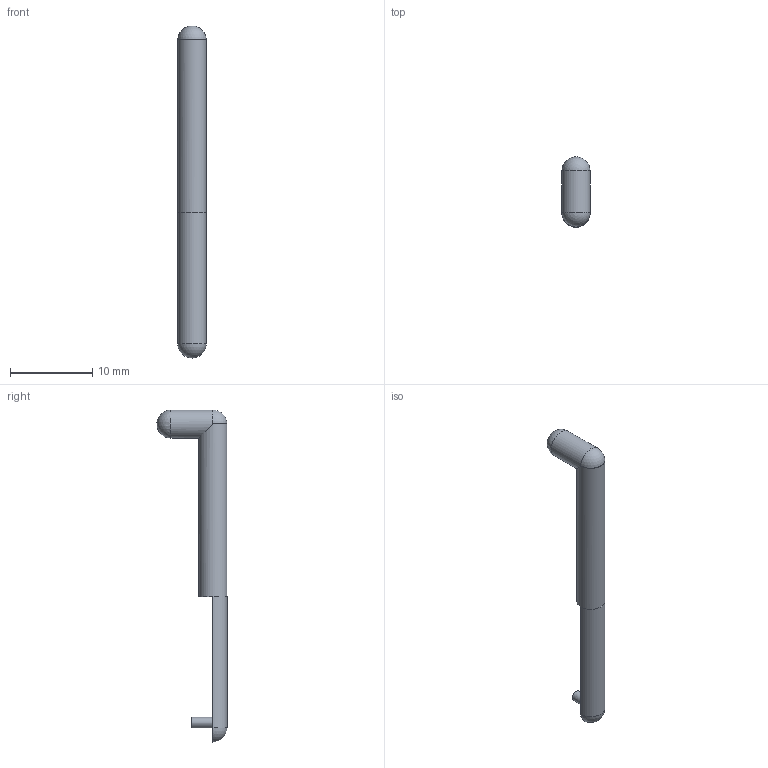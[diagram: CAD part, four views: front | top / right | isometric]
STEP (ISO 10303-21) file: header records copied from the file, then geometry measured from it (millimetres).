
FILE_DESCRIPTION(/* description */ ('Alibre Inc.'),/* implementation_level */ '2;1');
FILE_NAME(/* name */ 'export0',/* time_stamp */ '2012-08-14T17:35:51-05:00',/* author */ (''),/* organization */ (''),/* preprocessor_version */ 'ST-DEVELOPER v14',/* originating_system */ 'Alibre',/* authorisation */ '');
FILE_SCHEMA (('ALIBRE_SCHEMA','CONFIG_CONTROL_DESIGN'));
Length unit declared in the file: centimetre
Products named in the file (1): ID_1
Bounding box: 3.43 x 8.49 x 40.26 mm (x, y, z)
Volume: 330.2 mm3; surface area: 464.5 mm2
Topology: 1 solids, 1 shells, 13 faces, 35 edges, 21 vertices
Faces by surface type: cylinder 5, plane 5, sphere 3
Full cylindrical faces by diameter (mm): 1.278 x1, 3.421 x2
Entity records: 1164 total; most frequent: CARTESIAN_POINT 132, DIRECTION 91, CONSTRAINTPAIRUV 51, REFERENCEDEPENDENTUV 47, ORIENTED_EDGE 44, AXIS2_PLACEMENT_3D 41, PERSISTANTTOPOLOGYATTRIBUTE 40, REFERENCEPOINTUV 39
